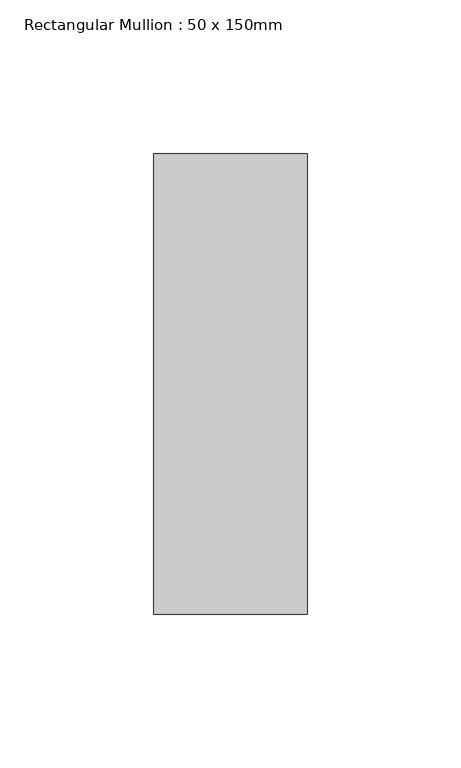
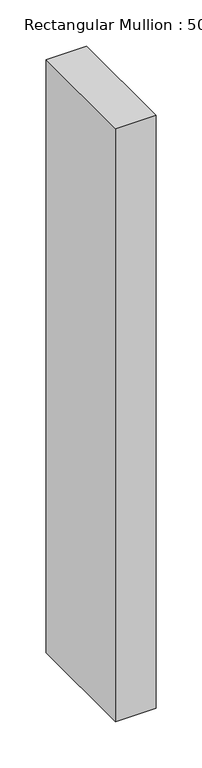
"""IFC4 building model written with IfcOpenShell, lengths in millimetres: member geometry, Rectangular Mullion : 50 x 150mm."""

from ifc_helpers import new_model, si_unit, frame, origin, place, context, project, spatial, polyline, outline, extrude, source, transform, mapped, element, save


def rectangular_mullion_50_x_150mm_74a08e02(model_context):
    return source(origin(), model_context, "Body", "SweptSolid", [
        extrude(outline(polyline([(25.0, 75.0), (25.0, -75.0), (-25.0, -75.0), (-25.0, 75.0), (25.0, 75.0)])), frame((0.0, 0.0, -780.7149096), z_axis=(0.0, 0.0, 1.0), x_axis=(1.0, 0.0, 0.0)), (0.0, 0.0, 1.0), 780.7149096),
    ])


if __name__ == "__main__":
    model = new_model("IFC4")
    model_context = context("Model", 3, world=origin())
    ifc_project = project(units=[si_unit("LENGTHUNIT", "METRE", prefix="MILLI")], contexts=[model_context])
    site = spatial("IfcSite", under=ifc_project)
    building = spatial("IfcBuilding", under=site)
    placement = place(None, origin())
    rectangular_mullion_50_x_150mm_shape = rectangular_mullion_50_x_150mm_74a08e02(model_context)
    element("IfcMember", 1, ObjectType="Rectangular Mullion : 50 x 150mm", at=placement, inside=building, context=model_context, shape_type="MappedRepresentation", body=[
        mapped(rectangular_mullion_50_x_150mm_shape, transform((0.0, 0.0, 0.0), x_axis=(1.0, 0.0, 0.0), y_axis=(0.0, 1.0, 0.0), z_axis=(0.0, 0.0, 1.0))),
    ])
    save(model, "model.ifc")
